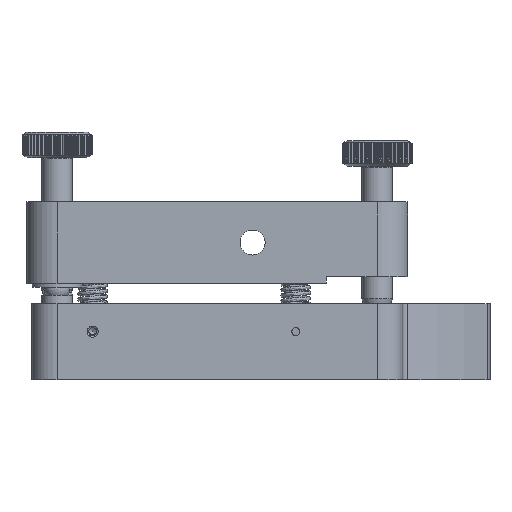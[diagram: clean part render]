
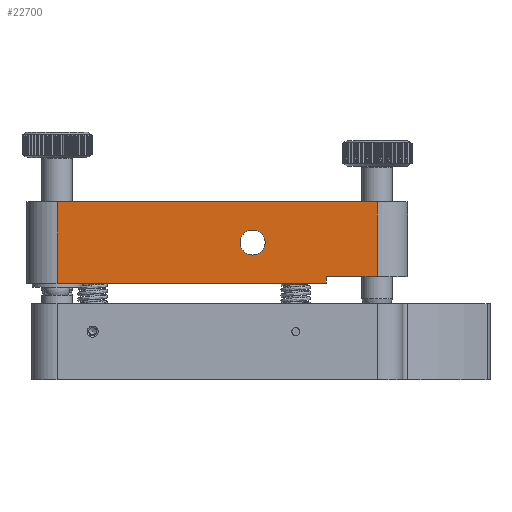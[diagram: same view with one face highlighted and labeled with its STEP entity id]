
A CAD part, front view. The second image highlights one B-rep face of the part: STEP entity #22700.
In plain terms, the highlighted planar face has unit normal (0, -1, 0).
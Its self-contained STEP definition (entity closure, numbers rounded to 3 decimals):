
#1825=LINE($,#29811,#3242);
#1828=LINE($,#29818,#3245);
#1833=LINE($,#29839,#3250);
#1894=LINE($,#30036,#3311);
#1897=LINE($,#30067,#3314);
#1898=LINE($,#30069,#3315);
#3242=VECTOR($,#25456,1.3);
#3245=VECTOR($,#25463,10.);
#3250=VECTOR($,#25482,53.);
#3311=VECTOR($,#25679,63.);
#3314=VECTOR($,#25724,16.);
#3315=VECTOR($,#25727,14.7);
#4687=PLANE($,#24076);
#5176=FACE_BOUND($,#6706,.T.);
#5421=FACE_OUTER_BOUND($,#6705,.T.);
#6705=EDGE_LOOP($,(#14433,#14434,#14435,#14436,#14437,#14438));
#6706=EDGE_LOOP($,(#14439));
#8161=CIRCLE($,#24071,2.459);
#8561=VERTEX_POINT($,#29808);
#8562=VERTEX_POINT($,#29810);
#8564=VERTEX_POINT($,#29816);
#8573=VERTEX_POINT($,#29838);
#8640=VERTEX_POINT($,#30033);
#8641=VERTEX_POINT($,#30035);
#8648=VERTEX_POINT($,#30061);
#10844=EDGE_CURVE($,#8562,#8561,#1825,.T.);
#10848=EDGE_CURVE($,#8561,#8564,#1828,.T.);
#10858=EDGE_CURVE($,#8573,#8562,#1833,.T.);
#10955=EDGE_CURVE($,#8641,#8640,#1894,.T.);
#10965=EDGE_CURVE($,#8648,#8648,#8161,.T.);
#10966=EDGE_CURVE($,#8573,#8640,#1897,.T.);
#10967=EDGE_CURVE($,#8641,#8564,#1898,.T.);
#14433=ORIENTED_EDGE($,*,*,#10848,.T.);
#14434=ORIENTED_EDGE($,*,*,#10967,.F.);
#14435=ORIENTED_EDGE($,*,*,#10955,.T.);
#14436=ORIENTED_EDGE($,*,*,#10966,.F.);
#14437=ORIENTED_EDGE($,*,*,#10858,.T.);
#14438=ORIENTED_EDGE($,*,*,#10844,.T.);
#14439=ORIENTED_EDGE($,*,*,#10965,.T.);
#22700=ADVANCED_FACE($,(#5421,#5176),#4687,.T.);
#24071=AXIS2_PLACEMENT_3D($,#30062,#25714,#25715);
#24076=AXIS2_PLACEMENT_3D($,#30068,#25725,#25726);
#25456=DIRECTION($,(0.,0.,1.));
#25463=DIRECTION($,(1.,0.,0.));
#25482=DIRECTION($,(1.,0.,0.));
#25679=DIRECTION($,(-1.,0.,0.));
#25714=DIRECTION('center_axis',(0.,1.,0.));
#25715=DIRECTION('ref_axis',(1.,0.,0.));
#25724=DIRECTION($,(0.,0.,1.));
#25725=DIRECTION('center_axis',(0.,-1.,0.));
#25726=DIRECTION('ref_axis',(0.,0.,-1.));
#25727=DIRECTION($,(0.,0.,-1.));
#29808=CARTESIAN_POINT('',(36.926,-0.038,1.3));
#29810=CARTESIAN_POINT('',(36.926,-0.038,0.));
#29811=CARTESIAN_POINT($,(36.926,-0.038,0.));
#29816=CARTESIAN_POINT('',(46.926,-0.038,1.3));
#29818=CARTESIAN_POINT($,(18.654,-0.038,1.3));
#29838=CARTESIAN_POINT('',(-16.074,-0.038,0.));
#29839=CARTESIAN_POINT($,(-22.074,-0.038,0.));
#30033=CARTESIAN_POINT('',(-16.074,-0.038,16.));
#30035=CARTESIAN_POINT('',(46.926,-0.038,16.));
#30036=CARTESIAN_POINT($,(-22.074,-0.038,16.));
#30061=CARTESIAN_POINT('',(19.967,-0.038,8.));
#30062=CARTESIAN_POINT('Origin',(22.426,-0.038,8.));
#30067=CARTESIAN_POINT($,(-16.074,-0.038,0.));
#30068=CARTESIAN_POINT('Origin',(-10.074,-0.038,
0.));
#30069=CARTESIAN_POINT($,(46.926,-0.038,0.));
